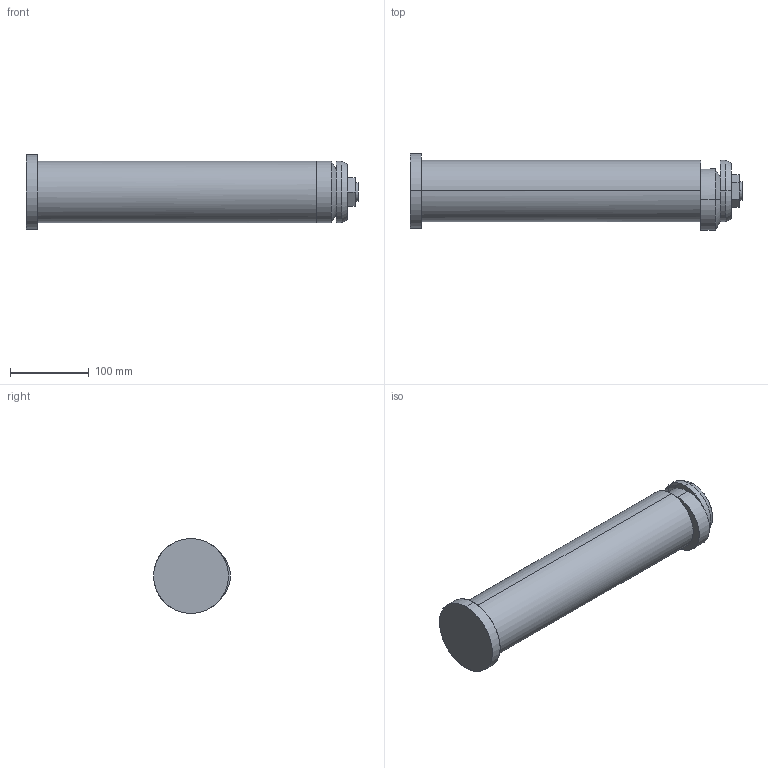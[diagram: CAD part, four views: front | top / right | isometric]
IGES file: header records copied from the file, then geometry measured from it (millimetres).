
Start section: START RECORD GO HERE.
Global section: file name: 395PSF-6.igs; native system: DASSAULT SYSTEMES CATIA V5 R20 - www.3ds.com; preprocessor: CATIA Version 5 Release 20 ; author: Utente; organization: NB04-ASUS; date: 20200409.224932; units: millimetre
Bounding box: 421.5 x 97.5 x 95 mm (x, y, z)
Surface area: 130091.3 mm2 (no closed solid volume)
Topology: 0 solids, 0 shells, 34 faces, 144 edges, 144 vertices
Faces by surface type: revolution 18, extrusion 16
